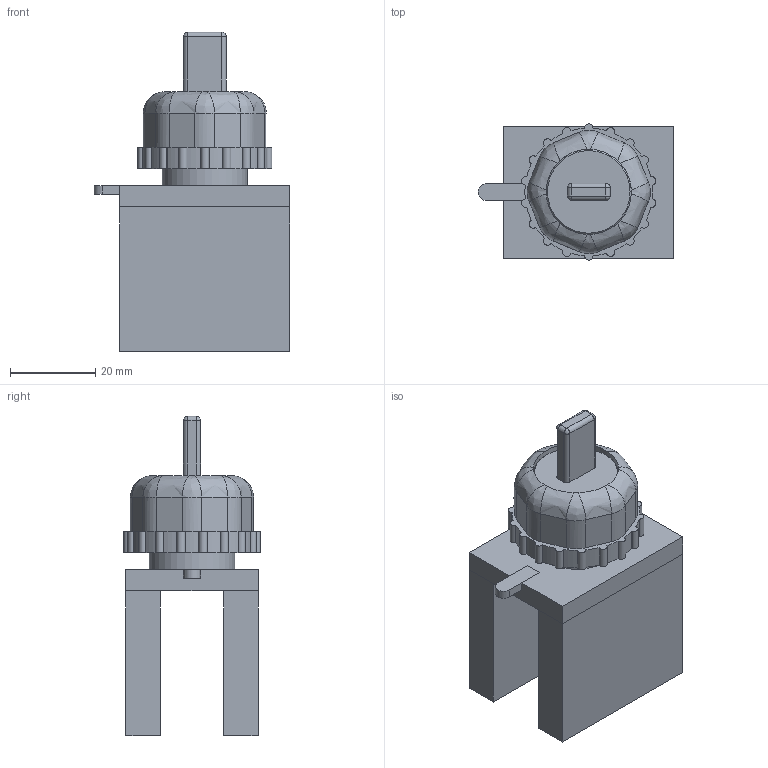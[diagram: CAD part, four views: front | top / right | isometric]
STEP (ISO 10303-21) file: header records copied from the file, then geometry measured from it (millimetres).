
FILE_DESCRIPTION(/* description */ (''),/* implementation_level */ '2;1');
FILE_NAME(/* name */ 'D:\CHINT3\NP8-X.stp',/* time_stamp */ '2017-12-10T21:01:11+03:00',/* author */ ('RSagdiev'),/* organization */ (''),/* preprocessor_version */ 'ST-DEVELOPER v16.5',/* originating_system */ 'Autodesk Inventor 2017',/* authorisation */ '');
FILE_SCHEMA (('AUTOMOTIVE_DESIGN { 1 0 10303 214 3 1 1 }'));
Length unit declared in the file: millimetre
Products named in the file (1): NP8-X
Bounding box: 46 x 32 x 75 mm (x, y, z)
Volume: 40942.1 mm3; surface area: 18348 mm2
Topology: 9 solids, 9 shells, 161 faces, 403 edges, 259 vertices
Faces by surface type: plane 84, cylinder 56, bspline 16, sphere 4, cone 1
Full cylindrical faces by diameter (mm): 20 x3
Entity records: 5202 total; most frequent: CARTESIAN_POINT 1266, DIRECTION 810, ORIENTED_EDGE 796, EDGE_CURVE 398, AXIS2_PLACEMENT_3D 282, VERTEX_POINT 258, LINE 246, VECTOR 246
